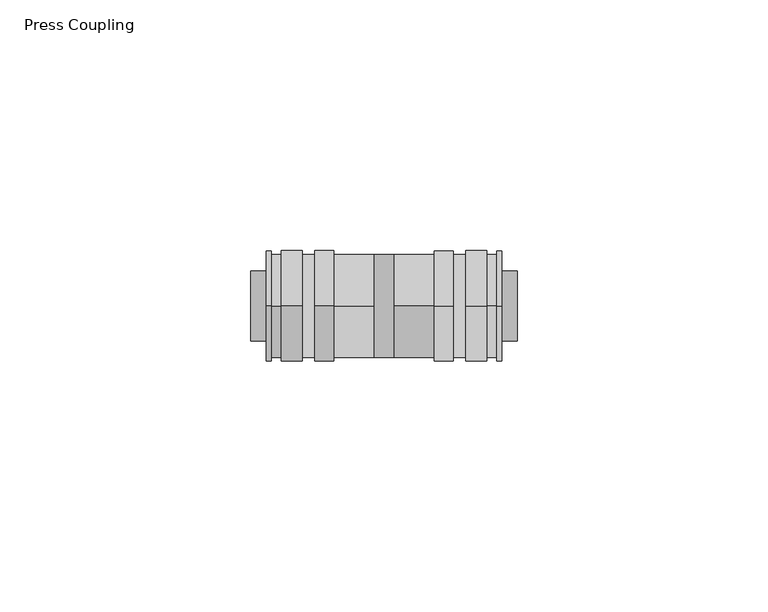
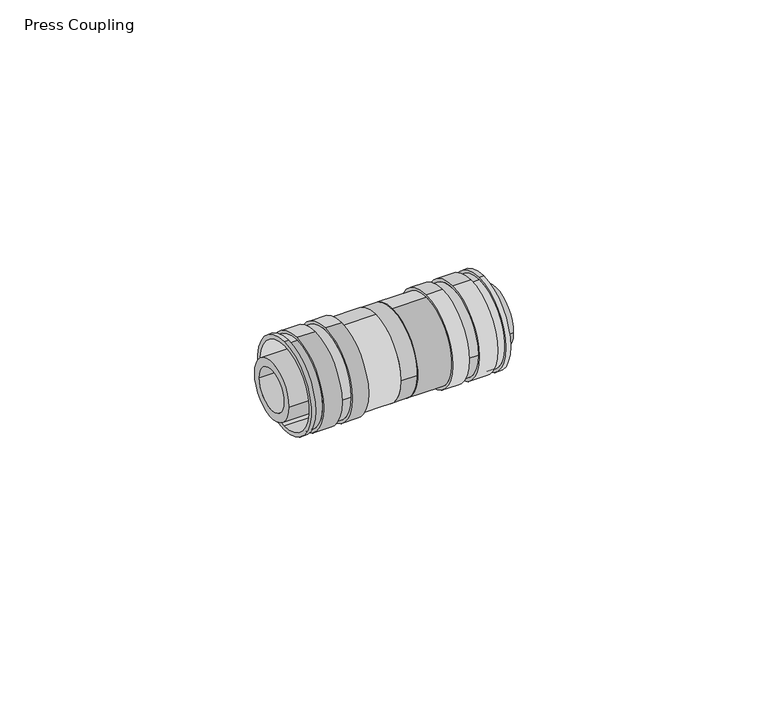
"""IFC4 building model written with IfcOpenShell, lengths in millimetres: pipe fitting geometry, Press Coupling : Superpipe Press Coupling."""

from ifc_helpers import new_model, si_unit, point, frame, frame_2d, origin, place, context, project, spatial, polyline, circle_curve, trimmed, segment, composite_curve, outline, extrude, source, transform, mapped, element, save
from ifc_brep_helpers import plane_surface, cylinder_surface, revolved_surface, advanced_brep


def press_coupling_43f2d661(model_context):
    return source(origin(), model_context, "Body", "SolidModel", [
        advanced_brep(
        [(50.0, 0.0, -11.0), (50.0, 0.0, 11.0), (50.0, 0.0, -10.0), (50.0, 0.0, 10.0), (28.5, 0.0, -10.3), (28.5, 0.0, 10.3), (28.5, 0.0, -10.0), (28.5, 0.0, 10.0), (49.0, 0.0, -11.0), (49.0, 0.0, 11.0), (47.0, 0.0, 11.0), (47.0, 0.0, -11.0), (42.75, 0.0, -11.0), (42.75, 11.0, 0.0), (42.75, 0.0, 11.0), (40.25, 11.0, 0.0), (40.25, 0.0, -11.0), (36.5, 0.0, -11.0), (36.5, 0.0, 11.0), (40.25, 0.0, 11.0), (42.75, -11.0, 0.0), (40.25, -11.0, 0.0), (47.0, 0.0, 10.3), (47.0, 0.0, -10.3), (49.0, 0.0, 10.3), (49.0, 0.0, -10.3), (42.75, 10.3, 0.0), (42.75, -10.3, 0.0), (40.25, 10.3, 0.0), (40.25, -10.3, 0.0), (36.5, 0.0, -10.3), (36.5, 0.0, 10.3)],
        [
            (0, 1, circle_curve(frame((50.0, 0.0, 0.0), z_axis=(1.0, 0.0, 0.0), x_axis=(0.0, 0.0, 1.0)), 11.0)),
            (1, 0, circle_curve(frame((50.0, 0.0, 0.0), z_axis=(1.0, 0.0, 0.0), x_axis=(0.0, 0.0, 1.0)), 11.0)),
            (2, 3, circle_curve(frame((50.0, 0.0, 0.0), z_axis=(-1.0, 0.0, 0.0), x_axis=(0.0, 0.0, 1.0)), 10.0)),
            (3, 2, circle_curve(frame((50.0, 0.0, 0.0), z_axis=(-1.0, 0.0, 0.0), x_axis=(0.0, 0.0, 1.0)), 10.0)),
            (4, 5, circle_curve(frame((28.5, 0.0, 0.0), z_axis=(-1.0, 0.0, 0.0), x_axis=(0.0, 0.0, 1.0)), 10.3)),
            (5, 4, circle_curve(frame((28.5, 0.0, 0.0), z_axis=(-1.0, 0.0, 0.0), x_axis=(0.0, 0.0, 1.0)), 10.3)),
            (6, 7, circle_curve(frame((28.5, 0.0, 0.0), z_axis=(1.0, 0.0, 0.0), x_axis=(0.0, 0.0, 1.0)), 10.0)),
            (7, 6, circle_curve(frame((28.5, 0.0, 0.0), z_axis=(1.0, 0.0, 0.0), x_axis=(0.0, 0.0, 1.0)), 10.0)),
            (0, 8),
            (8, 9, circle_curve(frame((49.0, 0.0, 0.0), z_axis=(1.0, 0.0, 0.0), x_axis=(0.0, 0.0, 1.0)), 11.0)),
            (9, 1),
            (10, 11, circle_curve(frame((47.0, 0.0, 0.0), z_axis=(-1.0, 0.0, 0.0), x_axis=(0.0, 0.0, 1.0)), 11.0)),
            (11, 12),
            (12, 13, circle_curve(frame((42.75, 0.0, 0.0), z_axis=(1.0, 0.0, 0.0), x_axis=(0.0, 0.0, 1.0)), 11.0)),
            (13, 14, circle_curve(frame((42.75, 0.0, 0.0), z_axis=(1.0, 0.0, 0.0), x_axis=(0.0, 0.0, 1.0)), 11.0)),
            (14, 10),
            (15, 16, circle_curve(frame((40.25, 0.0, 0.0), z_axis=(-1.0, 0.0, 0.0), x_axis=(0.0, 0.0, 1.0)), 11.0)),
            (16, 17),
            (17, 18, circle_curve(frame((36.5, 0.0, 0.0), z_axis=(1.0, 0.0, 0.0), x_axis=(0.0, 0.0, 1.0)), 11.0)),
            (18, 19),
            (19, 15, circle_curve(frame((40.25, 0.0, 0.0), z_axis=(-1.0, 0.0, 0.0), x_axis=(0.0, 0.0, 1.0)), 11.0)),
            (9, 8, circle_curve(frame((49.0, 0.0, 0.0), z_axis=(1.0, 0.0, 0.0), x_axis=(0.0, 0.0, 1.0)), 11.0)),
            (11, 10, circle_curve(frame((47.0, 0.0, 0.0), z_axis=(-1.0, 0.0, 0.0), x_axis=(0.0, 0.0, 1.0)), 11.0)),
            (14, 20, circle_curve(frame((42.75, 0.0, 0.0), z_axis=(1.0, 0.0, 0.0), x_axis=(0.0, 0.0, 1.0)), 11.0)),
            (20, 12, circle_curve(frame((42.75, 0.0, 0.0), z_axis=(1.0, 0.0, 0.0), x_axis=(0.0, 0.0, 1.0)), 11.0)),
            (16, 21, circle_curve(frame((40.25, 0.0, 0.0), z_axis=(-1.0, 0.0, 0.0), x_axis=(0.0, 0.0, 1.0)), 11.0)),
            (21, 19, circle_curve(frame((40.25, 0.0, 0.0), z_axis=(-1.0, 0.0, 0.0), x_axis=(0.0, 0.0, 1.0)), 11.0)),
            (18, 17, circle_curve(frame((36.5, 0.0, 0.0), z_axis=(1.0, 0.0, 0.0), x_axis=(0.0, 0.0, 1.0)), 11.0)),
            (2, 6),
            (7, 3),
            (22, 23, circle_curve(frame((47.0, 0.0, 0.0), z_axis=(-1.0, 0.0, 0.0), x_axis=(0.0, 0.0, -1.0)), 10.3)),
            (23, 22, circle_curve(frame((47.0, 0.0, 0.0), z_axis=(-1.0, 0.0, 0.0), x_axis=(0.0, 0.0, -1.0)), 10.3)),
            (24, 25, circle_curve(frame((49.0, 0.0, 0.0), z_axis=(1.0, 0.0, 0.0), x_axis=(0.0, 0.0, -1.0)), 10.3)),
            (25, 24, circle_curve(frame((49.0, 0.0, 0.0), z_axis=(1.0, 0.0, 0.0), x_axis=(0.0, 0.0, -1.0)), 10.3)),
            (23, 25),
            (24, 22),
            (26, 27, circle_curve(frame((42.75, 0.0, 0.0), z_axis=(1.0, 0.0, 0.0), x_axis=(0.0, -1.0, 0.0)), 10.3)),
            (27, 26, circle_curve(frame((42.75, 0.0, 0.0), z_axis=(1.0, 0.0, 0.0), x_axis=(0.0, -1.0, 0.0)), 10.3)),
            (28, 29, circle_curve(frame((40.25, 0.0, 0.0), z_axis=(-1.0, 0.0, 0.0), x_axis=(0.0, -1.0, 0.0)), 10.3)),
            (29, 28, circle_curve(frame((40.25, 0.0, 0.0), z_axis=(-1.0, 0.0, 0.0), x_axis=(0.0, -1.0, 0.0)), 10.3)),
            (26, 28),
            (29, 27),
            (30, 31, circle_curve(frame((36.5, 0.0, 0.0), z_axis=(1.0, 0.0, 0.0), x_axis=(0.0, 0.0, 1.0)), 10.3)),
            (31, 30, circle_curve(frame((36.5, 0.0, 0.0), z_axis=(1.0, 0.0, 0.0), x_axis=(0.0, 0.0, 1.0)), 10.3)),
            (31, 5),
            (4, 30),
        ],
        [
            plane_surface(frame((50.0, 0.0, 11.0), z_axis=(1.0, 0.0, 0.0), x_axis=(0.0, -1.0, 0.0))),
            plane_surface(frame((28.5, 0.0, 11.0), z_axis=(-1.0, 0.0, 0.0), x_axis=(0.0, 1.0, 0.0))),
            cylinder_surface(frame((28.5, 0.0, 0.0), z_axis=(1.0, 0.0, 0.0), x_axis=(0.0, 0.0, 1.0)), 11.0),
            revolved_surface(polyline([(28.5, 0.0, 10.0), (50.0, 0.0, 10.0)]), (28.5, 0.0, 0.0), (-1.0, 0.0, 0.0)),
            plane_surface(frame((47.0, 0.0, -11.0), z_axis=(1.0, 0.0, 0.0), x_axis=(0.0, -1.0, 0.0))),
            plane_surface(frame((49.0, 0.0, -11.0), z_axis=(-1.0, 0.0, 0.0), x_axis=(0.0, 1.0, 0.0))),
            cylinder_surface(frame((50.0, 0.0, 0.0), z_axis=(1.0, 0.0, 0.0), x_axis=(0.0, 0.0, -1.0)), 10.3),
            plane_surface(frame((42.75, -11.0, 0.0), z_axis=(-1.0, 0.0, 0.0), x_axis=(0.0, 0.0, -1.0))),
            plane_surface(frame((40.25, -11.0, 0.0), z_axis=(1.0, 0.0, 0.0), x_axis=(0.0, 0.0, 1.0))),
            cylinder_surface(frame((40.25, 0.0, 0.0), z_axis=(1.0, 0.0, 0.0), x_axis=(0.0, -1.0, 0.0)), 10.3),
            plane_surface(frame((36.5, 0.0, 11.0), z_axis=(-1.0, 0.0, 0.0), x_axis=(0.0, -1.0, 0.0))),
            cylinder_surface(frame((28.5, 0.0, 0.0), z_axis=(-1.0, 0.0, 0.0), x_axis=(0.0, 0.0, 1.0)), 10.3),
        ],
        [
            (0, [[1, 2], [3, 4]]),
            (1, [[5, 6], [7, 8]]),
            (2, [[-1, 9, 10, 11]]),
            (2, [[12, 13, 14, 15, 16]]),
            (2, [[17, 18, 19, 20, 21]]),
            (2, [[-2, -11, 22, -9]]),
            (2, [[23, -16, 24, 25, -13]]),
            (2, [[26, 27, -20, 28, -18]]),
            (3, [[-3, 29, -8, 30]]),
            (3, [[-4, -30, -7, -29]]),
            (4, [[-12, -23], [31, 32]]),
            (5, [[-10, -22], [33, 34]]),
            (6, [[-32, 35, -33, 36]]),
            (6, [[-31, -36, -34, -35]]),
            (7, [[-14, -25, -24, -15], [37, 38]]),
            (8, [[-17, -21, -27, -26], [39, 40]]),
            (9, [[-37, 41, -40, 42]]),
            (9, [[-38, -42, -39, -41]]),
            (10, [[-19, -28], [43, 44]]),
            (11, [[-44, 45, -5, 46]]),
            (11, [[-43, -46, -6, -45]]),
        ],
    ),
        advanced_brep(
        [(3.0, 0.0, -11.0), (3.0, 0.0, 11.0), (3.0, 0.0, -10.0), (3.0, 0.0, 10.0), (24.5, 0.0, -10.3), (24.5, 0.0, 10.3), (24.5, 0.0, -10.0), (24.5, 0.0, 10.0), (4.0, 0.0, -11.0), (4.0, 0.0, 11.0), (6.0, 0.0, 11.0), (6.0, 0.0, -11.0), (10.25, 0.0, -11.0), (10.25, -11.0, 0.0), (10.25, 0.0, 11.0), (16.5, 0.0, -11.0), (16.5, 0.0, 11.0), (12.75, 0.0, 11.0), (12.75, -11.0, 0.0), (12.75, 0.0, -11.0), (10.25, 11.0, 0.0), (12.75, 11.0, 0.0), (6.0, 0.0, 10.3), (6.0, 0.0, -10.3), (4.0, 0.0, 10.3), (4.0, 0.0, -10.3), (16.5, 0.0, -10.3), (16.5, 0.0, 10.3), (10.25, 10.3, 0.0), (10.25, -10.3, 0.0), (12.75, 10.3, 0.0), (12.75, -10.3, 0.0)],
        [
            (0, 1, circle_curve(frame((3.0, 0.0, 0.0), z_axis=(-1.0, 0.0, 0.0), x_axis=(0.0, 0.0, 1.0)), 11.0)),
            (1, 0, circle_curve(frame((3.0, 0.0, 0.0), z_axis=(-1.0, 0.0, 0.0), x_axis=(0.0, 0.0, 1.0)), 11.0)),
            (2, 3, circle_curve(frame((3.0, 0.0, 0.0), z_axis=(1.0, 0.0, 0.0), x_axis=(0.0, 0.0, 1.0)), 10.0)),
            (3, 2, circle_curve(frame((3.0, 0.0, 0.0), z_axis=(1.0, 0.0, 0.0), x_axis=(0.0, 0.0, 1.0)), 10.0)),
            (4, 5, circle_curve(frame((24.5, 0.0, 0.0), z_axis=(1.0, 0.0, 0.0), x_axis=(0.0, 0.0, 1.0)), 10.3)),
            (5, 4, circle_curve(frame((24.5, 0.0, 0.0), z_axis=(1.0, 0.0, 0.0), x_axis=(0.0, 0.0, 1.0)), 10.3)),
            (6, 7, circle_curve(frame((24.5, 0.0, 0.0), z_axis=(-1.0, 0.0, 0.0), x_axis=(0.0, 0.0, 1.0)), 10.0)),
            (7, 6, circle_curve(frame((24.5, 0.0, 0.0), z_axis=(-1.0, 0.0, 0.0), x_axis=(0.0, 0.0, 1.0)), 10.0)),
            (0, 8),
            (8, 9, circle_curve(frame((4.0, 0.0, 0.0), z_axis=(-1.0, 0.0, 0.0), x_axis=(0.0, 0.0, 1.0)), 11.0)),
            (9, 1),
            (10, 11, circle_curve(frame((6.0, 0.0, 0.0), z_axis=(1.0, 0.0, 0.0), x_axis=(0.0, 0.0, 1.0)), 11.0)),
            (11, 12),
            (12, 13, circle_curve(frame((10.25, 0.0, 0.0), z_axis=(-1.0, 0.0, 0.0), x_axis=(0.0, 0.0, 1.0)), 11.0)),
            (13, 14, circle_curve(frame((10.25, 0.0, 0.0), z_axis=(-1.0, 0.0, 0.0), x_axis=(0.0, 0.0, 1.0)), 11.0)),
            (14, 10),
            (15, 16, circle_curve(frame((16.5, 0.0, 0.0), z_axis=(-1.0, 0.0, 0.0), x_axis=(0.0, 0.0, 1.0)), 11.0)),
            (16, 17),
            (17, 18, circle_curve(frame((12.75, 0.0, 0.0), z_axis=(1.0, 0.0, 0.0), x_axis=(0.0, 0.0, 1.0)), 11.0)),
            (18, 19, circle_curve(frame((12.75, 0.0, 0.0), z_axis=(1.0, 0.0, 0.0), x_axis=(0.0, 0.0, 1.0)), 11.0)),
            (19, 15),
            (9, 8, circle_curve(frame((4.0, 0.0, 0.0), z_axis=(-1.0, 0.0, 0.0), x_axis=(0.0, 0.0, 1.0)), 11.0)),
            (11, 10, circle_curve(frame((6.0, 0.0, 0.0), z_axis=(1.0, 0.0, 0.0), x_axis=(0.0, 0.0, 1.0)), 11.0)),
            (14, 20, circle_curve(frame((10.25, 0.0, 0.0), z_axis=(-1.0, 0.0, 0.0), x_axis=(0.0, 0.0, 1.0)), 11.0)),
            (20, 12, circle_curve(frame((10.25, 0.0, 0.0), z_axis=(-1.0, 0.0, 0.0), x_axis=(0.0, 0.0, 1.0)), 11.0)),
            (16, 15, circle_curve(frame((16.5, 0.0, 0.0), z_axis=(-1.0, 0.0, 0.0), x_axis=(0.0, 0.0, 1.0)), 11.0)),
            (19, 21, circle_curve(frame((12.75, 0.0, 0.0), z_axis=(1.0, 0.0, 0.0), x_axis=(0.0, 0.0, 1.0)), 11.0)),
            (21, 17, circle_curve(frame((12.75, 0.0, 0.0), z_axis=(1.0, 0.0, 0.0), x_axis=(0.0, 0.0, 1.0)), 11.0)),
            (2, 6),
            (7, 3),
            (22, 23, circle_curve(frame((6.0, 0.0, 0.0), z_axis=(1.0, 0.0, 0.0), x_axis=(0.0, 0.0, -1.0)), 10.3)),
            (23, 22, circle_curve(frame((6.0, 0.0, 0.0), z_axis=(1.0, 0.0, 0.0), x_axis=(0.0, 0.0, -1.0)), 10.3)),
            (24, 25, circle_curve(frame((4.0, 0.0, 0.0), z_axis=(-1.0, 0.0, 0.0), x_axis=(0.0, 0.0, -1.0)), 10.3)),
            (25, 24, circle_curve(frame((4.0, 0.0, 0.0), z_axis=(-1.0, 0.0, 0.0), x_axis=(0.0, 0.0, -1.0)), 10.3)),
            (23, 25),
            (24, 22),
            (26, 27, circle_curve(frame((16.5, 0.0, 0.0), z_axis=(-1.0, 0.0, 0.0), x_axis=(0.0, 0.0, 1.0)), 10.3)),
            (27, 26, circle_curve(frame((16.5, 0.0, 0.0), z_axis=(-1.0, 0.0, 0.0), x_axis=(0.0, 0.0, 1.0)), 10.3)),
            (27, 5),
            (4, 26),
            (28, 29, circle_curve(frame((10.25, 0.0, 0.0), z_axis=(-1.0, 0.0, 0.0), x_axis=(0.0, -1.0, 0.0)), 10.3)),
            (29, 28, circle_curve(frame((10.25, 0.0, 0.0), z_axis=(-1.0, 0.0, 0.0), x_axis=(0.0, -1.0, 0.0)), 10.3)),
            (30, 31, circle_curve(frame((12.75, 0.0, 0.0), z_axis=(1.0, 0.0, 0.0), x_axis=(0.0, -1.0, 0.0)), 10.3)),
            (31, 30, circle_curve(frame((12.75, 0.0, 0.0), z_axis=(1.0, 0.0, 0.0), x_axis=(0.0, -1.0, 0.0)), 10.3)),
            (29, 31),
            (30, 28),
        ],
        [
            plane_surface(frame((3.0, 0.0, 11.0), z_axis=(-1.0, 0.0, 0.0), x_axis=(0.0, 1.0, 0.0))),
            plane_surface(frame((24.5, 0.0, 11.0), z_axis=(1.0, 0.0, 0.0), x_axis=(0.0, -1.0, 0.0))),
            cylinder_surface(frame((24.5, 0.0, 0.0), z_axis=(-1.0, 0.0, 0.0), x_axis=(0.0, 0.0, 1.0)), 11.0),
            revolved_surface(polyline([(24.5, 0.0, 10.0), (3.0, 0.0, 10.0)]), (24.5, 0.0, 0.0), (1.0, 0.0, 0.0)),
            plane_surface(frame((6.0, 0.0, -11.0), z_axis=(-1.0, 0.0, 0.0), x_axis=(0.0, 1.0, 0.0))),
            plane_surface(frame((4.0, 0.0, -11.0), z_axis=(1.0, 0.0, 0.0), x_axis=(0.0, -1.0, 0.0))),
            cylinder_surface(frame((3.0, 0.0, 0.0), z_axis=(-1.0, 0.0, 0.0), x_axis=(0.0, 0.0, -1.0)), 10.3),
            plane_surface(frame((16.5, 0.0, 11.0), z_axis=(1.0, 0.0, 0.0), x_axis=(0.0, 1.0, 0.0))),
            cylinder_surface(frame((24.5, 0.0, 0.0), z_axis=(1.0, 0.0, 0.0), x_axis=(0.0, 0.0, 1.0)), 10.3),
            plane_surface(frame((10.25, -11.0, 0.0), z_axis=(1.0, 0.0, 0.0), x_axis=(0.0, 0.0, 1.0))),
            plane_surface(frame((12.75, -11.0, 0.0), z_axis=(-1.0, 0.0, 0.0), x_axis=(0.0, 0.0, -1.0))),
            cylinder_surface(frame((12.75, 0.0, 0.0), z_axis=(1.0, 0.0, 0.0), x_axis=(0.0, -1.0, 0.0)), 10.3),
        ],
        [
            (0, [[1, 2], [3, 4]]),
            (1, [[5, 6], [7, 8]]),
            (2, [[-1, 9, 10, 11]]),
            (2, [[12, 13, 14, 15, 16]]),
            (2, [[17, 18, 19, 20, 21]]),
            (2, [[-2, -11, 22, -9]]),
            (2, [[23, -16, 24, 25, -13]]),
            (2, [[26, -21, 27, 28, -18]]),
            (3, [[-3, 29, -8, 30]]),
            (3, [[-4, -30, -7, -29]]),
            (4, [[-12, -23], [31, 32]]),
            (5, [[-10, -22], [33, 34]]),
            (6, [[-32, 35, -33, 36]]),
            (6, [[-31, -36, -34, -35]]),
            (7, [[-17, -26], [37, 38]]),
            (8, [[-38, 39, -5, 40]]),
            (8, [[-37, -40, -6, -39]]),
            (9, [[-14, -25, -24, -15], [41, 42]]),
            (10, [[-20, -19, -28, -27], [43, 44]]),
            (11, [[-42, 45, -43, 46]]),
            (11, [[-41, -46, -44, -45]]),
        ],
    ),
        extrude(outline(composite_curve([segment(trimmed(circle_curve(frame_2d((-0.000673, 0.0)), 7.0), [point((-7.000673, 0.0))], [point((6.999327, 0.0))], False, "CARTESIAN"), True, "CONTINUOUS"), segment(trimmed(circle_curve(frame_2d((-0.000673, 0.0)), 7.0), [point((6.999327, 0.0))], [point((-7.000673, 0.0))], False, "CARTESIAN"), True, "CONTINUOUS")], self_intersect=False), holes=[composite_curve([segment(trimmed(circle_curve(frame_2d((-0.000673, 0.0)), 5.0), [point((4.999327, 0.0))], [point((-5.000673, 0.0))], True, "CARTESIAN"), True, "CONTINUOUS"), segment(trimmed(circle_curve(frame_2d((-0.000673, 0.0)), 5.0), [point((-5.000673, 0.0))], [point((4.999327, 0.0))], True, "CARTESIAN"), True, "CONTINUOUS")], self_intersect=False)]), frame((28.5, 0.0, 0.0), z_axis=(1.0, 0.0, 0.0), x_axis=(0.0, 1.0, 0.0)), (0.0, 0.0, 1.0), 24.5),
        extrude(outline(composite_curve([segment(trimmed(circle_curve(frame_2d((-0.000673, 0.0)), 7.0), [point((-7.000673, 0.0))], [point((6.999327, 0.0))], False, "CARTESIAN"), True, "CONTINUOUS"), segment(trimmed(circle_curve(frame_2d((-0.000673, 0.0)), 7.0), [point((6.999327, 0.0))], [point((-7.000673, 0.0))], False, "CARTESIAN"), True, "CONTINUOUS")], self_intersect=False), holes=[composite_curve([segment(trimmed(circle_curve(frame_2d((-0.000673, 0.0)), 5.0), [point((4.999327, 0.0))], [point((-5.000673, 0.0))], True, "CARTESIAN"), True, "CONTINUOUS"), segment(trimmed(circle_curve(frame_2d((-0.000673, 0.0)), 5.0), [point((-5.000673, 0.0))], [point((4.999327, 0.0))], True, "CARTESIAN"), True, "CONTINUOUS")], self_intersect=False)]), frame((0.0, 0.0, 0.0), z_axis=(1.0, 0.0, 0.0), x_axis=(0.0, 1.0, 0.0)), (0.0, 0.0, 1.0), 24.5),
        extrude(outline(composite_curve([segment(trimmed(circle_curve(frame_2d((-0.000673, 0.0)), 10.3), [point((-10.300673, 0.0))], [point((10.299327, 0.0))], False, "CARTESIAN"), True, "CONTINUOUS"), segment(trimmed(circle_curve(frame_2d((-0.000673, 0.0)), 10.3), [point((10.299327, 0.0))], [point((-10.300673, 0.0))], False, "CARTESIAN"), True, "CONTINUOUS")], self_intersect=False), holes=[composite_curve([segment(trimmed(circle_curve(frame_2d((-0.000673, 0.0)), 5.0), [point((4.999327, 0.0))], [point((-5.000673, 0.0))], True, "CARTESIAN"), True, "CONTINUOUS"), segment(trimmed(circle_curve(frame_2d((-0.000673, 0.0)), 5.0), [point((-5.000673, 0.0))], [point((4.999327, 0.0))], True, "CARTESIAN"), True, "CONTINUOUS")], self_intersect=False)]), frame((24.5, 0.0, 0.0), z_axis=(1.0, 0.0, 0.0), x_axis=(0.0, 1.0, 0.0)), (0.0, 0.0, 1.0), 4.0),
    ])


if __name__ == "__main__":
    model = new_model("IFC4")
    model_context = context("Model", 3, world=origin())
    ifc_project = project(units=[si_unit("LENGTHUNIT", "METRE", prefix="MILLI")], contexts=[model_context])
    site = spatial("IfcSite", under=ifc_project)
    building = spatial("IfcBuilding", under=site)
    placement = place(None, origin())
    press_coupling_shape = press_coupling_43f2d661(model_context)
    element("IfcPipeFitting", 1, ObjectType="Press Coupling : Superpipe Press Coupling", at=placement, inside=building, context=model_context, shape_type="MappedRepresentation", body=[
        mapped(press_coupling_shape, transform((0.0, 0.0, 0.0), x_axis=(1.0, 0.0, 0.0), y_axis=(0.0, 1.0, 0.0), z_axis=(0.0, 0.0, 1.0))),
    ])
    save(model, "model.ifc")
